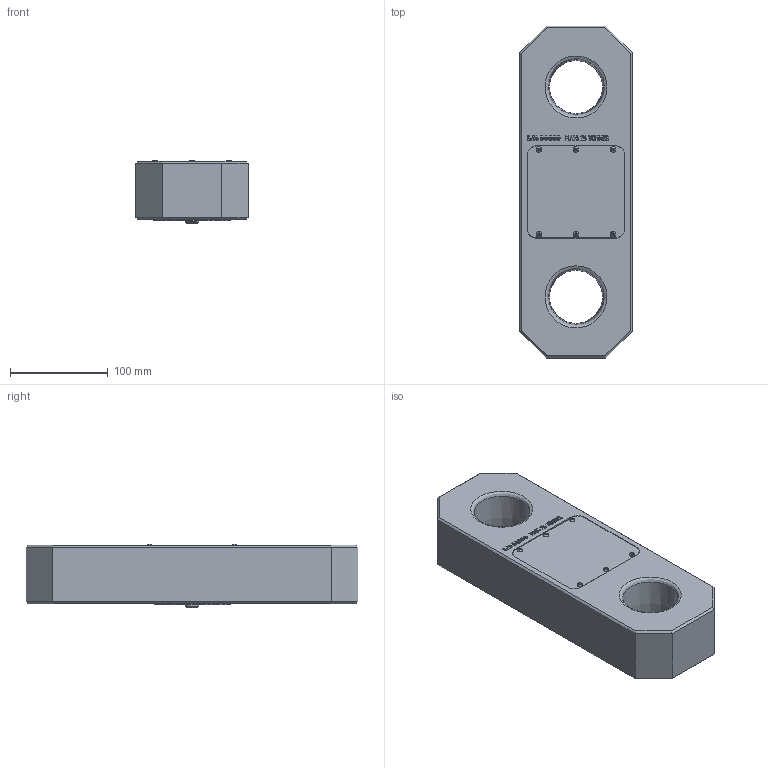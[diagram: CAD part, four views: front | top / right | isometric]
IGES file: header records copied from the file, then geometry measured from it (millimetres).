
Global section: file name: RLP25T; native system: Autodesk Inventor 2016; preprocessor: unknown; author: rdivakaran; date: 20180811.122134; units: metre
Bounding box: 115 x 340 x 65.32 mm (x, y, z)
Volume: 1951129.9 mm3; surface area: 148840.5 mm2
Topology: 1 solids, 1 shells, 862 faces, 2453 edges, 1660 vertices
Faces by surface type: bspline 862
